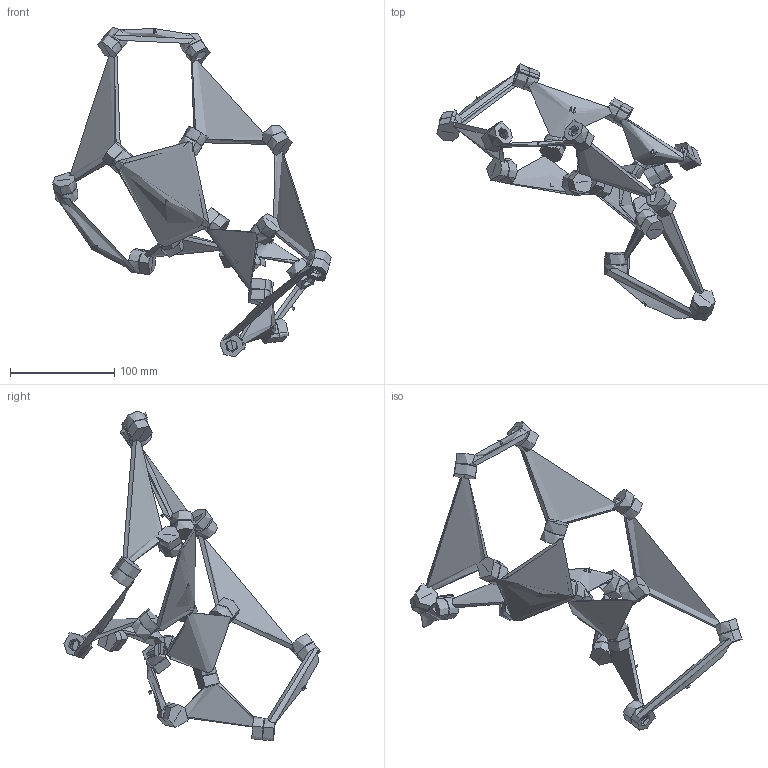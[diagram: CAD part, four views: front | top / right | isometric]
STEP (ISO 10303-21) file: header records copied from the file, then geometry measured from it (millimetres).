
FILE_DESCRIPTION(/* description */ (''),/* implementation_level */ '2;1');
FILE_NAME(/* name */ 'snapping-net',/* time_stamp */ '2026-03-29T11:10:03+02:00',/* author */ (''),/* organization */ (''),/* preprocessor_version */ 'ST-DEVELOPER v19.2',/* originating_system */ 'Rhino 8.29',/* authorisation */ '');
FILE_SCHEMA (('CONFIG_CONTROL_DESIGN'));
Length unit declared in the file: millimetre
Products named in the file (1): Document
Bounding box: 267.72 x 246.63 x 317.24 mm (x, y, z)
Volume: 223872.9 mm3; surface area: 120962.2 mm2
Topology: 12 solids, 12 shells, 729 faces, 1775 edges, 1090 vertices
Faces by surface type: bspline 729
Entity records: 85964 total; most frequent: CARTESIAN_POINT 60133, B_SPLINE_CURVE_WITH_KNOTS 4163, ORIENTED_EDGE 3548, PCURVE 3548, DEFINITIONAL_REPRESENTATION 3548, SURFACE_CURVE 1774, EDGE_CURVE 1774, DIRECTION 1457
